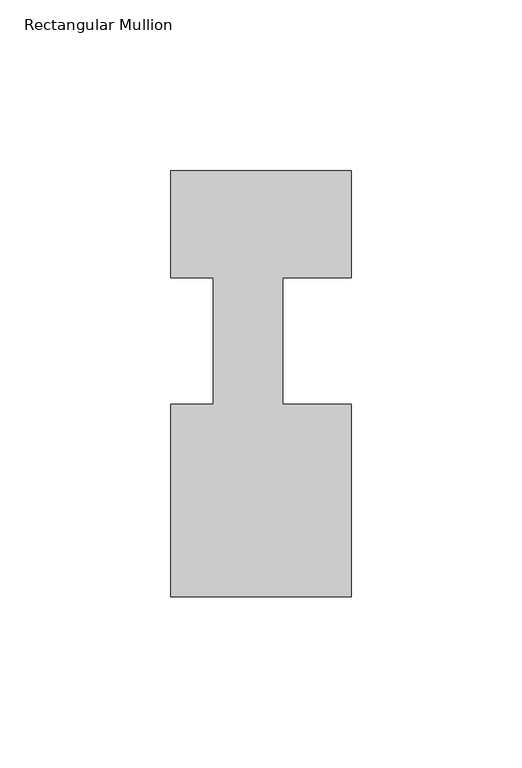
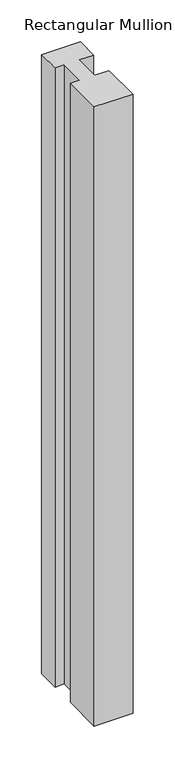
"""IFC4 building model written with IfcOpenShell, lengths in millimetres: member geometry, Rectangular Mullion : IMP310 125mm x 53mm Vertical."""

from ifc_helpers import new_model, si_unit, frame, origin, place, context, project, spatial, polyline, outline, extrude, source, transform, mapped, element, save


def rectangular_mullion_266b0499(model_context):
    return source(origin(), model_context, "Body", "SweptSolid", [
        extrude(outline(polyline([(-53.0, -75.0), (-53.0, -18.5), (-40.4480934, -18.5), (-40.4480934, 18.5), (-53.0, 18.5), (-53.0, 50.0), (0.0, 50.0), (0.0, 18.5), (-20.15, 18.5), (-20.15, -18.5), (0.0, -18.5), (0.0, -75.0), (-53.0, -75.0)])), frame((0.0, 0.0, -900.0), z_axis=(0.0, 0.0, 1.0), x_axis=(1.0, 0.0, 0.0)), (0.0, 0.0, 1.0), 900.0),
    ])


if __name__ == "__main__":
    model = new_model("IFC4")
    model_context = context("Model", 3, world=origin())
    ifc_project = project(units=[si_unit("LENGTHUNIT", "METRE", prefix="MILLI")], contexts=[model_context])
    site = spatial("IfcSite", under=ifc_project)
    building = spatial("IfcBuilding", under=site)
    placement = place(None, origin())
    rectangular_mullion_shape = rectangular_mullion_266b0499(model_context)
    element("IfcMember", 1, ObjectType="Rectangular Mullion : IMP310 125mm x 53mm Vertical", at=placement, inside=building, context=model_context, shape_type="MappedRepresentation", body=[
        mapped(rectangular_mullion_shape, transform((0.0, 0.0, 0.0), x_axis=(1.0, 0.0, 0.0), y_axis=(0.0, 1.0, 0.0), z_axis=(0.0, 0.0, 1.0))),
    ])
    save(model, "model.ifc")
